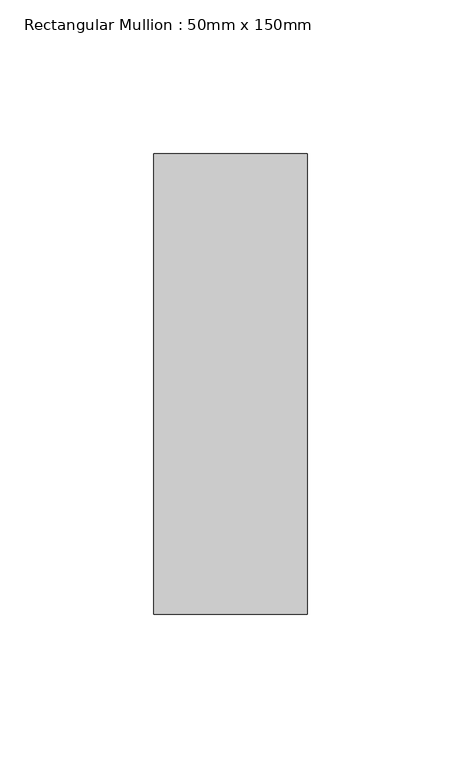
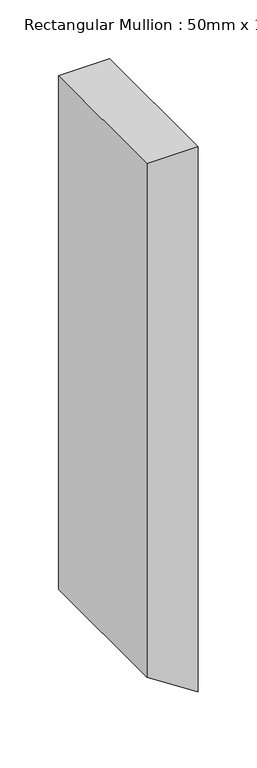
"""IFC4 building model written with IfcOpenShell, lengths in millimetres: member geometry, Rectangular Mullion : 50mm x 150mm."""

import ifcopenshell
import ifcopenshell.guid

model = None  # the IFC model being written
_history = None  # IfcOwnerHistory: only IFC2X3 demands one
_inside = {}  # id of a spatial element -> (the spatial element, [elements in it])
_under = {}  # id of a project, library or spatial element -> (it, [spatial elements below it])
_declared = {}  # id of a project -> (the project, [libraries it declares])
_typed = {}  # id of a type object -> (the type object, [elements of that type])
_made_of = {}  # id of a material, layer set ... -> (it, [elements and type objects made of it])


def new_model(schema):
    """Start an empty IFC model of exactly this schema.

    Asked for "IFC4X3", IfcOpenShell would pick the latest addendum, in which some entities
    have other attributes; the version numbers below select the first issue.
    IFC2X3 requires an IfcOwnerHistory on every rooted entity: one is made here for all.
    """
    global model, _history
    if schema == "IFC4X3":
        model = ifcopenshell.file(schema_version=(4, 3, 0, 0))
    else:
        model = ifcopenshell.file(schema=schema)
    _inside.clear()
    _under.clear()
    _declared.clear()
    _typed.clear()
    _made_of.clear()
    _history = None
    if model.schema == "IFC2X3":
        org = make("IfcOrganization", Name="unknown")
        user = make(
            "IfcPersonAndOrganization",
            ThePerson=make("IfcPerson", FamilyName="unknown"),
            TheOrganization=org,
        )
        app = make(
            "IfcApplication",
            ApplicationDeveloper=org,
            Version="unknown",
            ApplicationFullName="unknown",
            ApplicationIdentifier="unknown",
        )
        _history = make(
            "IfcOwnerHistory",
            OwningUser=user,
            OwningApplication=app,
            ChangeAction="ADDED",
            CreationDate=0,
        )
    return model


def make(cls, **values):
    """One entity of the class cls with the attributes given. An attribute that is None is left unset."""
    return model.create_entity(
        cls, **{name: value for name, value in values.items() if value is not None}
    )


def rooted(cls, **values):
    """An entity with a GlobalId (a new one), such as an element, a storey or a relation."""
    return make(cls, GlobalId=ifcopenshell.guid.new(), OwnerHistory=_history, **values)


def si_unit(unit_type, name, prefix=None):
    """IfcSIUnit, for example si_unit("LENGTHUNIT", "METRE", prefix="MILLI")."""
    return make("IfcSIUnit", UnitType=unit_type, Prefix=prefix, Name=name)


def assignment(units):
    """IfcUnitAssignment: the units of a project."""
    return None if units is None else make("IfcUnitAssignment", Units=units)


def point(xyz):
    """IfcCartesianPoint."""
    return None if xyz is None else make("IfcCartesianPoint", Coordinates=xyz)


def direction(xyz):
    """IfcDirection."""
    return None if xyz is None else make("IfcDirection", DirectionRatios=xyz)


def frame(location, z_axis=None, x_axis=None):
    """IfcAxis2Placement3D, a coordinate frame: its origin and axes. An axis left out is left unset."""
    return make(
        "IfcAxis2Placement3D",
        Location=point(location),
        Axis=direction(z_axis),
        RefDirection=direction(x_axis),
    )


def origin():
    """The frame at (0, 0, 0) with its axes left unset."""
    return frame((0.0, 0.0, 0.0))


def place(relative_to, where):
    """IfcLocalPlacement: puts the frame where relative to a parent placement (None: the world)."""
    return make(
        "IfcLocalPlacement", PlacementRelTo=relative_to, RelativePlacement=where
    )


def context(
    kind, dimensions, precision=None, world=None, true_north=None, identifier=None
):
    """IfcGeometricRepresentationContext, for example the 3D "Model" context."""
    return make(
        "IfcGeometricRepresentationContext",
        ContextIdentifier=identifier,
        ContextType=kind,
        CoordinateSpaceDimension=dimensions,
        Precision=precision,
        WorldCoordinateSystem=world,
        TrueNorth=true_north,
    )


def project(units=None, contexts=None):
    """IfcProject with its units and contexts."""
    return rooted(
        "IfcProject",
        Name="project",
        RepresentationContexts=contexts,
        UnitsInContext=assignment(units),
    )


def spatial(cls, under=None, at=None, **own):
    """A site, building, storey or space (cls), placed at a placement, below another one or the project."""
    s = rooted(cls, ObjectPlacement=at, **own)
    if under is not None:
        _under.setdefault(under.id(), (under, []))[1].append(s)
    return s


def polyline(points):
    """IfcPolyline through the points."""
    return make("IfcPolyline", Points=[point(p) for p in points])


def outline(outer, holes=None, kind="AREA"):
    """IfcArbitraryClosedProfileDef: a profile drawn as a closed curve; with holes, ...WithVoids."""
    if holes is None:
        return make("IfcArbitraryClosedProfileDef", ProfileType=kind, OuterCurve=outer)
    return make(
        "IfcArbitraryProfileDefWithVoids",
        ProfileType=kind,
        OuterCurve=outer,
        InnerCurves=holes,
    )


def extrude(swept, where, along, depth):
    """IfcExtrudedAreaSolid: the profile swept, set in the frame where, extruded along a direction by depth."""
    return make(
        "IfcExtrudedAreaSolid",
        SweptArea=swept,
        Position=where,
        ExtrudedDirection=direction(along),
        Depth=depth,
    )


def shape(context_of_items, identifier, shape_type, items):
    """IfcShapeRepresentation: the items that make up one representation, for example the "Body"."""
    return make(
        "IfcShapeRepresentation",
        ContextOfItems=context_of_items,
        RepresentationIdentifier=identifier,
        RepresentationType=shape_type,
        Items=items,
    )


def source(mapping_origin, context_of_items, identifier, shape_type, items):
    """IfcRepresentationMap: a shape defined once, which mapped items show again and again."""
    return make(
        "IfcRepresentationMap",
        MappingOrigin=mapping_origin,
        MappedRepresentation=shape(context_of_items, identifier, shape_type, items),
    )


def transform(
    local_origin,
    x_axis=None,
    y_axis=None,
    z_axis=None,
    scale=None,
    scale2=None,
    scale3=None,
    uniform=True,
):
    """IfcCartesianTransformationOperator3D, or its non-uniform kind. x_axis, y_axis, z_axis: its Axis1, 2, 3."""
    if uniform:
        return make(
            "IfcCartesianTransformationOperator3D",
            Axis1=direction(x_axis),
            Axis2=direction(y_axis),
            LocalOrigin=point(local_origin),
            Scale=scale,
            Axis3=direction(z_axis),
        )
    return make(
        "IfcCartesianTransformationOperator3DnonUniform",
        Axis1=direction(x_axis),
        Axis2=direction(y_axis),
        LocalOrigin=point(local_origin),
        Scale=scale,
        Axis3=direction(z_axis),
        Scale2=scale2,
        Scale3=scale3,
    )


def mapped(mapping_source, mapping_target):
    """IfcMappedItem: shows the shape of a source again, moved by a transform."""
    return make(
        "IfcMappedItem", MappingSource=mapping_source, MappingTarget=mapping_target
    )


def made_of(thing, what):
    """Note that an element or type object is made of a material, layer set ...; save() writes the relation."""
    if what is not None:
        _made_of.setdefault(what.id(), (what, []))[1].append(thing)
    return thing


def element(
    cls,
    number,
    at=None,
    inside=None,
    cuts=None,
    type_object=None,
    material=None,
    context=None,
    identifier="Body",
    shape_type=None,
    held_by="IfcProductDefinitionShape",
    body=None,
    shapes=None,
    **own,
):
    """One element of the class cls, such as IfcWall. Its Tag is "e" and its number.

    at: its placement. inside: the storey or other place that contains it. cuts: it is an
    opening in that element (IfcRelVoidsElement). A single representation is given by context,
    identifier, shape_type and body (its items); several are given by shapes. held_by: the class
    of the entity that holds the representations. save() writes the other relations.
    """
    e = rooted(cls, Tag="e%d" % number, ObjectPlacement=at, **own)
    if body is not None:
        shapes = [shape(context, identifier, shape_type, body)]
    if shapes is not None:
        e.Representation = make(held_by, Representations=shapes)
    if inside is not None:
        _inside.setdefault(inside.id(), (inside, []))[1].append(e)
    if cuts is not None:
        rooted(
            "IfcRelVoidsElement", RelatingBuildingElement=cuts, RelatedOpeningElement=e
        )
    if type_object is not None:
        _typed.setdefault(type_object.id(), (type_object, []))[1].append(e)
    return made_of(e, material)


def aggregate(whole, parts):
    """IfcRelAggregates: a whole, such as a stair, and the parts it consists of."""
    return rooted("IfcRelAggregates", RelatingObject=whole, RelatedObjects=parts)


def save(model, path):
    """Write the relations noted so far, then the file.

    IfcRelAggregates (storeys below a building ...), IfcRelContainedInSpatialStructure (elements
    in a storey), IfcRelDefinesByType, IfcRelAssociatesMaterial and IfcRelDeclares: one each for
    every whole, place, type object, material and project.
    """
    for whole, parts in _under.values():
        aggregate(whole, parts)
    for where, things in _inside.values():
        rooted(
            "IfcRelContainedInSpatialStructure",
            RelatedElements=things,
            RelatingStructure=where,
        )
    for kind, things in _typed.values():
        rooted("IfcRelDefinesByType", RelatedObjects=things, RelatingType=kind)
    for what, things in _made_of.values():
        rooted("IfcRelAssociatesMaterial", RelatedObjects=things, RelatingMaterial=what)
    for by, libraries in _declared.values():
        rooted("IfcRelDeclares", RelatingContext=by, RelatedDefinitions=libraries)
    model.write(path)


def rectangular_mullion_50mm_x_150mm_4f540f7b(model_context):
    return source(origin(), model_context, "Body", "SweptSolid", [
        extrude(outline(polyline([(0.0, 0.0), (0.0, -50.0), (-533.0586608, -50.0), (-565.6123007, 0.0), (0.0, 0.0)])), frame((0.0, -75.0, 0.0), z_axis=(0.0, 1.0, 0.0), x_axis=(0.0, 0.0, 1.0)), (0.0, 0.0, 1.0), 150.0),
    ])


if __name__ == "__main__":
    model = new_model("IFC4")
    model_context = context("Model", 3, world=origin())
    ifc_project = project(units=[si_unit("LENGTHUNIT", "METRE", prefix="MILLI")], contexts=[model_context])
    site = spatial("IfcSite", under=ifc_project)
    building = spatial("IfcBuilding", under=site)
    placement = place(None, origin())
    rectangular_mullion_50mm_x_150mm_shape = rectangular_mullion_50mm_x_150mm_4f540f7b(model_context)
    element("IfcMember", 1, ObjectType="Rectangular Mullion : 50mm x 150mm", at=placement, inside=building, context=model_context, shape_type="MappedRepresentation", body=[
        mapped(rectangular_mullion_50mm_x_150mm_shape, transform((0.0, 0.0, 0.0), x_axis=(1.0, 0.0, 0.0), y_axis=(0.0, 1.0, 0.0), z_axis=(0.0, 0.0, 1.0))),
    ])
    save(model, "model.ifc")
